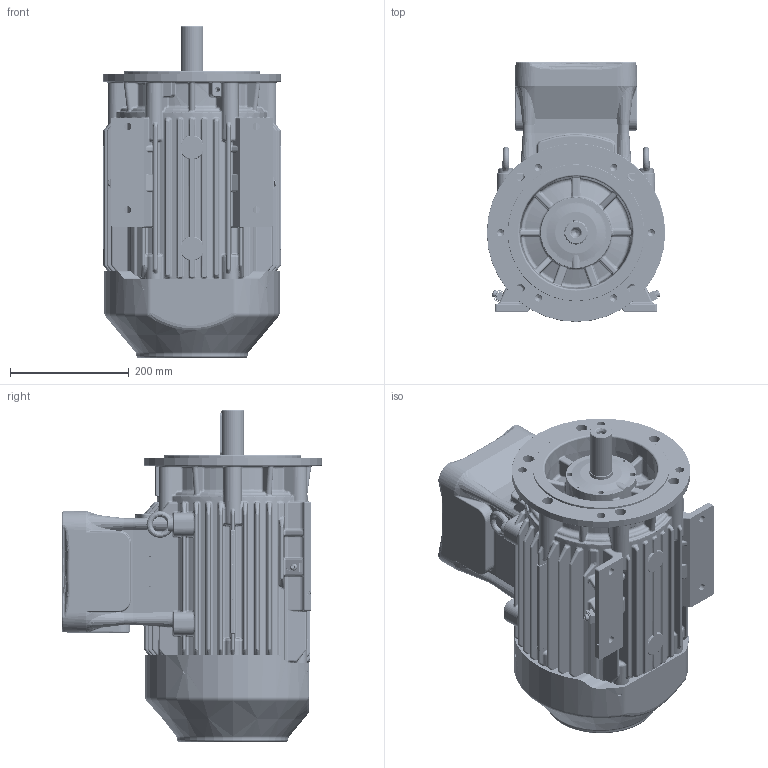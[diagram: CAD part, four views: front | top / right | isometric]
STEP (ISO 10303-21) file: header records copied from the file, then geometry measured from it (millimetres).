
FILE_DESCRIPTION (( 'STEP AP214' ), '1' );
FILE_NAME ('6RD132SA2E3 IM2001.STEP', '2021-08-05T07:08:43', ( '' ), ( '' ), 'SwSTEP 2.0', 'SolidWorks 2018', '' );
FILE_SCHEMA (( 'AUTOMOTIVE_DESIGN' ));
Length unit declared in the file: millimetre
Products named in the file (1): 6RD132SA2E3 IM2001
Bounding box: 300 x 437 x 557.99 mm (x, y, z)
Volume: 31902194.8 mm3; surface area: 1124523.5 mm2
Topology: 9 solids, 27 shells, 5185 faces, 12400 edges, 7292 vertices
Faces by surface type: cylinder 2437, bspline 998, plane 933, torus 423, sphere 213, cone 181
Entity records: 227589 total; most frequent: CARTESIAN_POINT 113797, ORIENTED_EDGE 24144, DIRECTION 23962, EDGE_CURVE 12072, AXIS2_PLACEMENT_3D 10019, VERTEX_POINT 7275, CIRCLE 5832, EDGE_LOOP 5551
